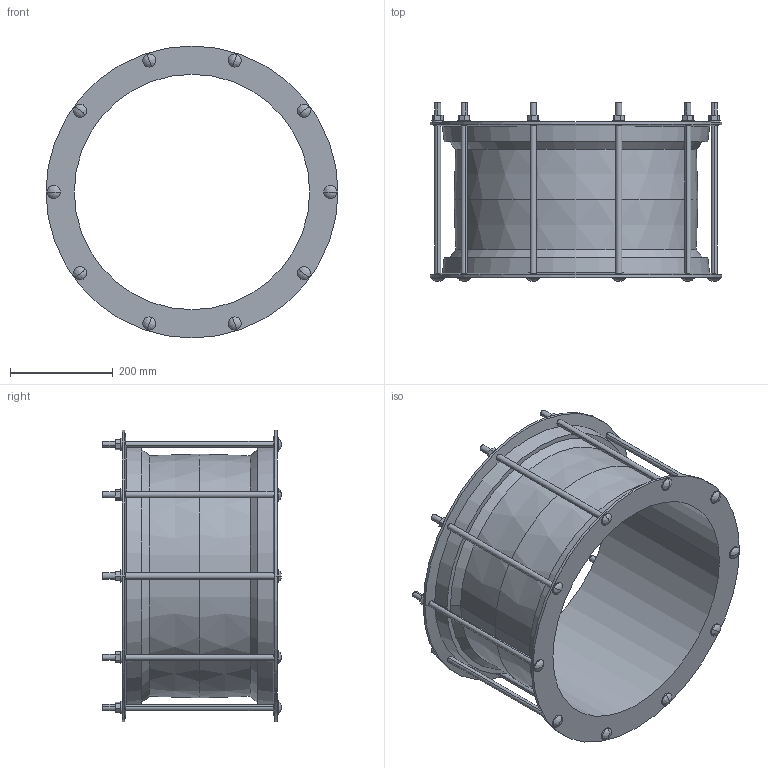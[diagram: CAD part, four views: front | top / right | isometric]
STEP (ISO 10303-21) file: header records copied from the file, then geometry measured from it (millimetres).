
FILE_DESCRIPTION((''),'2;1');
FILE_NAME('MAXIFIT_439_456','2018-12-18T',('mfairey'),('Glynwed Pipe Systems'),'CREO PARAMETRIC BY PTC INC, 2016130','CREO PARAMETRIC BY PTC INC, 2016130','');
FILE_SCHEMA(('CONFIG_CONTROL_DESIGN'));
Length unit declared in the file: millimetre
Products named in the file (1): MAXIFIT_439_456
Bounding box: 568 x 348 x 568 mm (x, y, z)
Volume: 6815476.6 mm3; surface area: 1317515.9 mm2
Topology: 1 solids, 1 shells, 216 faces, 524 edges, 328 vertices
Faces by surface type: plane 94, cylinder 86, bspline 20, cone 16
Entity records: 7706 total; most frequent: CARTESIAN_POINT 2682, DIRECTION 1018, ORIENTED_EDGE 1008, EDGE_CURVE 504, AXIS2_PLACEMENT_3D 366, VERTEX_POINT 328, VECTOR 286, LINE 286
